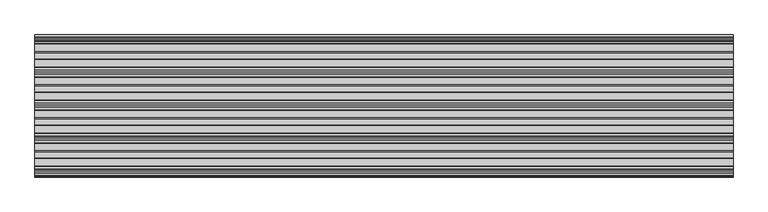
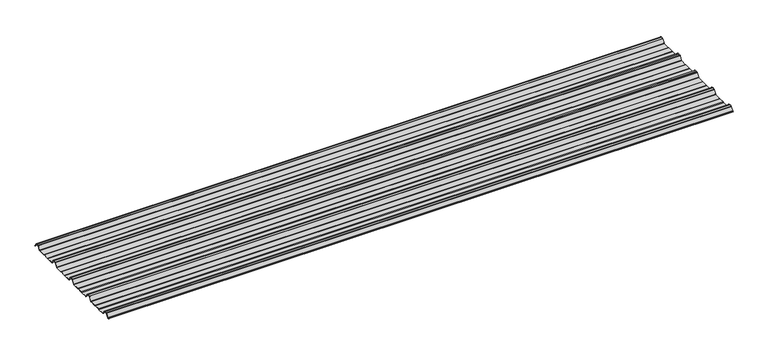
"""IFC4 building model written with IfcOpenShell, lengths in millimetres: beam geometry, 3D_Metalcraft T-Rib : 3D_Metalcraft T-Rib."""

from ifc_helpers import new_model, si_unit, point, frame, frame_2d, origin, place, context, project, spatial, polyline, circle_curve, trimmed, segment, composite_curve, outline, extrude, source, transform, mapped, element, save


def beam_5dd2faeb(model_context):
    return source(origin(), model_context, "Body", "SweptSolid", [
        extrude(outline(composite_curve([segment(polyline([(-72.2377386, -25.7896475), (-76.3538889, -24.06703), (-113.6461111, -24.06703), (-117.7622614, -25.7896475), (-160.0, -25.7896475)]), True, "CONTINUOUS"), segment(trimmed(circle_curve(frame_2d((-159.2196788, -21.4509358)), 4.4083239), [point((-160.0, -25.7896475))], [point((-162.8209858, -23.9933574))], False, "CARTESIAN"), True, "CONTINUOUS"), segment(polyline([(-162.8209858, -23.9933574), (-178.3273257, -0.5940367)]), True, "CONTINUOUS"), segment(trimmed(circle_curve(frame_2d((-180.8929255, -2.3855242)), 3.1291741), [point((-178.3273257, -0.5940367))], [point((-179.9028031, 0.582874))], True, "CARTESIAN"), True, "CONTINUOUS"), segment(trimmed(circle_curve(frame_2d((-189.9940851, -29.8891871)), 32.0995402), [point((-179.9028031, 0.582874))], [point((-190.0, 2.2103525))], True, "CARTESIAN"), True, "CONTINUOUS"), segment(trimmed(circle_curve(frame_2d((-190.0059149, -29.8891871)), 32.0995402), [point((-190.0, 2.2103525))], [point((-200.0971969, 0.582874))], True, "CARTESIAN"), True, "CONTINUOUS"), segment(trimmed(circle_curve(frame_2d((-199.1070745, -2.3855242)), 3.1291741), [point((-200.0971969, 0.582874))], [point((-201.6726743, -0.5940367))], True, "CARTESIAN"), True, "CONTINUOUS"), segment(polyline([(-201.6726743, -0.5940367), (-217.1790142, -23.9933574)]), True, "CONTINUOUS"), segment(trimmed(circle_curve(frame_2d((-220.7803212, -21.4509358)), 4.4083239), [point((-217.1790142, -23.9933574))], [point((-220.0, -25.7896475))], False, "CARTESIAN"), True, "CONTINUOUS"), segment(polyline([(-220.0, -25.7896475), (-262.2377386, -25.7896475), (-266.3538889, -24.06703), (-303.6461111, -24.06703), (-307.7622614, -25.7896475), (-350.0, -25.7896475)]), True, "CONTINUOUS"), segment(trimmed(circle_curve(frame_2d((-349.2196788, -21.4509358)), 4.4083239), [point((-350.0, -25.7896475))], [point((-352.8209858, -23.9933574))], False, "CARTESIAN"), True, "CONTINUOUS"), segment(polyline([(-352.8209858, -23.9933574), (-368.3273257, -0.5940367)]), True, "CONTINUOUS"), segment(trimmed(circle_curve(frame_2d((-370.8929255, -2.3855242)), 3.1291741), [point((-368.3273257, -0.5940367))], [point((-369.9028031, 0.582874))], True, "CARTESIAN"), True, "CONTINUOUS"), segment(trimmed(circle_curve(frame_2d((-379.9940851, -29.8891871)), 32.0995402), [point((-369.9028031, 0.582874))], [point((-380.0, 2.2103525))], True, "CARTESIAN"), True, "CONTINUOUS"), segment(trimmed(circle_curve(frame_2d((-380.0059149, -29.8891871)), 32.0995402), [point((-380.0, 2.2103525))], [point((-390.0971969, 0.582874))], True, "CARTESIAN"), True, "CONTINUOUS"), segment(trimmed(circle_curve(frame_2d((-389.1070745, -2.3855242)), 3.1291741), [point((-390.0971969, 0.582874))], [point((-391.6726743, -0.5940367))], True, "CARTESIAN"), True, "CONTINUOUS"), segment(polyline([(-391.6726743, -0.5940367), (-407.1790142, -23.9933574)]), True, "CONTINUOUS"), segment(trimmed(circle_curve(frame_2d((-410.7803212, -21.4509358)), 4.4083239), [point((-407.1790142, -23.9933574))], [point((-410.0, -25.7896475))], False, "CARTESIAN"), True, "CONTINUOUS"), segment(polyline([(-410.0, -25.7896475), (-452.2377387, -25.7896475), (-456.3538889, -24.06703), (-493.6461111, -24.06703), (-497.7622614, -25.7896475), (-540.0, -25.7896475)]), True, "CONTINUOUS"), segment(trimmed(circle_curve(frame_2d((-539.2196788, -21.4509358)), 4.4083239), [point((-540.0, -25.7896475))], [point((-542.8209858, -23.9933574))], False, "CARTESIAN"), True, "CONTINUOUS"), segment(polyline([(-542.8209858, -23.9933574), (-558.3273257, -0.5940367)]), True, "CONTINUOUS"), segment(trimmed(circle_curve(frame_2d((-560.8929255, -2.3855242)), 3.1291741), [point((-558.3273257, -0.5940367))], [point((-559.9028031, 0.582874))], True, "CARTESIAN"), True, "CONTINUOUS"), segment(trimmed(circle_curve(frame_2d((-569.9940851, -29.8891871)), 32.0995402), [point((-559.9028031, 0.582874))], [point((-570.0, 2.2103525))], True, "CARTESIAN"), True, "CONTINUOUS"), segment(trimmed(circle_curve(frame_2d((-570.0059149, -29.8891871)), 32.0995402), [point((-570.0, 2.2103525))], [point((-580.0971969, 0.582874))], True, "CARTESIAN"), True, "CONTINUOUS"), segment(trimmed(circle_curve(frame_2d((-579.1070745, -2.3855242)), 3.1291741), [point((-580.0971969, 0.582874))], [point((-581.6726743, -0.5940367))], True, "CARTESIAN"), True, "CONTINUOUS"), segment(polyline([(-581.6726743, -0.5940367), (-597.1790142, -23.9933574)]), True, "CONTINUOUS"), segment(trimmed(circle_curve(frame_2d((-600.7803212, -21.4509358)), 4.4083239), [point((-597.1790142, -23.9933574))], [point((-600.0, -25.7896475))], False, "CARTESIAN"), True, "CONTINUOUS"), segment(polyline([(-600.0, -25.7896475), (-642.2377387, -25.7896475), (-646.3538889, -24.06703), (-683.6461111, -24.06703), (-687.7622614, -25.7896475), (-730.0, -25.7896475)]), True, "CONTINUOUS"), segment(trimmed(circle_curve(frame_2d((-729.2196788, -21.4509358)), 4.4083239), [point((-730.0, -25.7896475))], [point((-732.8209858, -23.9933574))], False, "CARTESIAN"), True, "CONTINUOUS"), segment(polyline([(-732.8209858, -23.9933574), (-748.3273257, -0.5940367)]), True, "CONTINUOUS"), segment(trimmed(circle_curve(frame_2d((-750.8929255, -2.3855242)), 3.1291741), [point((-748.3273257, -0.5940367))], [point((-749.9028031, 0.582874))], True, "CARTESIAN"), True, "CONTINUOUS"), segment(trimmed(circle_curve(frame_2d((-759.9940851, -29.8891871)), 32.0995402), [point((-749.9028031, 0.582874))], [point((-760.0, 2.2103525))], True, "CARTESIAN"), True, "CONTINUOUS"), segment(trimmed(circle_curve(frame_2d((-760.0059149, -29.8891871)), 32.0995402), [point((-760.0, 2.2103525))], [point((-770.0971969, 0.582874))], True, "CARTESIAN"), True, "CONTINUOUS"), segment(trimmed(circle_curve(frame_2d((-769.1070745, -2.3855242)), 3.1291741), [point((-770.0971969, 0.582874))], [point((-771.6726743, -0.5940367))], True, "CARTESIAN"), True, "CONTINUOUS"), segment(polyline([(-771.6726743, -0.5940367), (-785.8536479, -21.993358)]), True, "CONTINUOUS"), segment(trimmed(circle_curve(frame_2d((-789.4549545, -19.4509358)), 4.4083239), [point((-785.8536479, -21.993358))], [point((-788.6746333, -23.7896475))], False, "CARTESIAN"), True, "CONTINUOUS"), segment(polyline([(-788.6746333, -23.7896475), (-792.3232685, -23.7896475)]), True, "CONTINUOUS"), segment(trimmed(circle_curve(frame_2d((-792.3232685, -23.2896475)), 0.5), [point((-792.3232685, -23.7896475))], [point((-792.3232685, -22.7896475))], False, "CARTESIAN"), True, "CONTINUOUS"), segment(polyline([(-792.3232685, -22.7896475), (-788.769625, -22.7896475)]), True, "CONTINUOUS"), segment(trimmed(circle_curve(frame_2d((-789.4549545, -19.4509358)), 3.4083239), [point((-788.769625, -22.7896475))], [point((-786.6785605, -21.42788))], True, "CARTESIAN"), True, "CONTINUOUS"), segment(polyline([(-786.6785605, -21.42788), (-772.5, -0.0322)]), True, "CONTINUOUS"), segment(trimmed(circle_curve(frame_2d((-769.1070745, -2.3855242)), 4.1291741), [point((-772.5, -0.0322))], [point((-770.41253, 1.5318556))], False, "CARTESIAN"), True, "CONTINUOUS"), segment(trimmed(circle_curve(frame_2d((-760.0059149, -29.8891871)), 33.0995402), [point((-770.41253, 1.5318556))], [point((-760.0, 3.2103525))], False, "CARTESIAN"), True, "CONTINUOUS"), segment(trimmed(circle_curve(frame_2d((-759.9940851, -29.8891871)), 33.0995402), [point((-760.0, 3.2103525))], [point((-749.58747, 1.5318556))], False, "CARTESIAN"), True, "CONTINUOUS"), segment(trimmed(circle_curve(frame_2d((-750.8929255, -2.3855242)), 4.1291741), [point((-749.58747, 1.5318556))], [point((-747.5, -0.0322))], False, "CARTESIAN"), True, "CONTINUOUS"), segment(polyline([(-747.5, -0.0322), (-732.1223092, -23.2373872)]), True, "CONTINUOUS"), segment(trimmed(circle_curve(frame_2d((-729.2196788, -21.4509358)), 3.4083239), [point((-732.1223092, -23.2373872))], [point((-729.9050084, -24.7896475))], True, "CARTESIAN"), True, "CONTINUOUS"), segment(polyline([(-729.9050084, -24.7896475), (-687.9630742, -24.7896475), (-683.846924, -23.06703), (-646.1530761, -23.06703), (-642.0369258, -24.7896475), (-600.0949917, -24.7896475)]), True, "CONTINUOUS"), segment(trimmed(circle_curve(frame_2d((-600.7803212, -21.4509358)), 3.4083239), [point((-600.0949917, -24.7896475))], [point((-597.8776908, -23.2373872))], True, "CARTESIAN"), True, "CONTINUOUS"), segment(polyline([(-597.8776908, -23.2373872), (-582.5, -0.0322)]), True, "CONTINUOUS"), segment(trimmed(circle_curve(frame_2d((-579.1070745, -2.3855242)), 4.1291741), [point((-582.5, -0.0322))], [point((-580.41253, 1.5318556))], False, "CARTESIAN"), True, "CONTINUOUS"), segment(trimmed(circle_curve(frame_2d((-570.0059149, -29.8891871)), 33.0995402), [point((-580.41253, 1.5318556))], [point((-570.0, 3.2103525))], False, "CARTESIAN"), True, "CONTINUOUS"), segment(trimmed(circle_curve(frame_2d((-569.9940851, -29.8891871)), 33.0995402), [point((-570.0, 3.2103525))], [point((-559.58747, 1.5318556))], False, "CARTESIAN"), True, "CONTINUOUS"), segment(trimmed(circle_curve(frame_2d((-560.8929255, -2.3855242)), 4.1291741), [point((-559.58747, 1.5318556))], [point((-557.5, -0.0322))], False, "CARTESIAN"), True, "CONTINUOUS"), segment(polyline([(-557.5, -0.0322), (-542.1223092, -23.2373872)]), True, "CONTINUOUS"), segment(trimmed(circle_curve(frame_2d((-539.2196788, -21.4509358)), 3.4083239), [point((-542.1223092, -23.2373872))], [point((-539.9050084, -24.7896475))], True, "CARTESIAN"), True, "CONTINUOUS"), segment(polyline([(-539.9050084, -24.7896475), (-497.9630742, -24.7896475), (-493.846924, -23.06703), (-456.1530761, -23.06703), (-452.0369258, -24.7896475), (-410.0949917, -24.7896475)]), True, "CONTINUOUS"), segment(trimmed(circle_curve(frame_2d((-410.7803212, -21.4509358)), 3.4083239), [point((-410.0949917, -24.7896475))], [point((-407.8776908, -23.2373872))], True, "CARTESIAN"), True, "CONTINUOUS"), segment(polyline([(-407.8776908, -23.2373872), (-392.5, -0.0322)]), True, "CONTINUOUS"), segment(trimmed(circle_curve(frame_2d((-389.1070745, -2.3855242)), 4.1291741), [point((-392.5, -0.0322))], [point((-390.41253, 1.5318556))], False, "CARTESIAN"), True, "CONTINUOUS"), segment(trimmed(circle_curve(frame_2d((-380.0059149, -29.8891871)), 33.0995402), [point((-390.41253, 1.5318556))], [point((-380.0, 3.2103525))], False, "CARTESIAN"), True, "CONTINUOUS"), segment(trimmed(circle_curve(frame_2d((-379.9940851, -29.8891871)), 33.0995402), [point((-380.0, 3.2103525))], [point((-369.58747, 1.5318556))], False, "CARTESIAN"), True, "CONTINUOUS"), segment(trimmed(circle_curve(frame_2d((-370.8929255, -2.3855242)), 4.1291741), [point((-369.58747, 1.5318556))], [point((-367.5, -0.0322))], False, "CARTESIAN"), True, "CONTINUOUS"), segment(polyline([(-367.5, -0.0322), (-352.1223092, -23.2373872)]), True, "CONTINUOUS"), segment(trimmed(circle_curve(frame_2d((-349.2196788, -21.4509358)), 3.4083239), [point((-352.1223092, -23.2373872))], [point((-349.9050084, -24.7896475))], True, "CARTESIAN"), True, "CONTINUOUS"), segment(polyline([(-349.9050084, -24.7896475), (-307.9630742, -24.7896475), (-303.846924, -23.06703), (-266.153076, -23.06703), (-262.0369258, -24.7896475), (-220.0949917, -24.7896475)]), True, "CONTINUOUS"), segment(trimmed(circle_curve(frame_2d((-220.7803212, -21.4509358)), 3.4083239), [point((-220.0949917, -24.7896475))], [point((-217.8776908, -23.2373872))], True, "CARTESIAN"), True, "CONTINUOUS"), segment(polyline([(-217.8776908, -23.2373872), (-202.5, -0.0322)]), True, "CONTINUOUS"), segment(trimmed(circle_curve(frame_2d((-199.1070745, -2.3855242)), 4.1291741), [point((-202.5, -0.0322))], [point((-200.41253, 1.5318556))], False, "CARTESIAN"), True, "CONTINUOUS"), segment(trimmed(circle_curve(frame_2d((-190.0059149, -29.8891871)), 33.0995402), [point((-200.41253, 1.5318556))], [point((-190.0, 3.2103525))], False, "CARTESIAN"), True, "CONTINUOUS"), segment(trimmed(circle_curve(frame_2d((-189.9940851, -29.8891871)), 33.0995402), [point((-190.0, 3.2103525))], [point((-179.58747, 1.5318556))], False, "CARTESIAN"), True, "CONTINUOUS"), segment(trimmed(circle_curve(frame_2d((-180.8929255, -2.3855242)), 4.1291741), [point((-179.58747, 1.5318556))], [point((-177.5, -0.0322))], False, "CARTESIAN"), True, "CONTINUOUS"), segment(polyline([(-177.5, -0.0322), (-162.1223092, -23.2373872)]), True, "CONTINUOUS"), segment(trimmed(circle_curve(frame_2d((-159.2196788, -21.4509358)), 3.4083239), [point((-162.1223092, -23.2373872))], [point((-159.9050084, -24.7896475))], True, "CARTESIAN"), True, "CONTINUOUS"), segment(polyline([(-159.9050084, -24.7896475), (-117.9630742, -24.7896475), (-113.846924, -23.06703), (-76.153076, -23.06703), (-72.0369258, -24.7896475), (-27.6957008, -24.7896475)]), True, "CONTINUOUS"), segment(trimmed(circle_curve(frame_2d((-28.3810303, -21.4509358)), 3.4083239), [point((-27.6957008, -24.7896475))], [point((-25.6046359, -23.4278795))], True, "CARTESIAN"), True, "CONTINUOUS"), segment(polyline([(-25.6046359, -23.4278795), (-10.8390947, -1.146436)]), True, "CONTINUOUS"), segment(trimmed(circle_curve(frame_2d((-9.2408211, -2.2055853)), 1.9173616), [point((-10.8390947, -1.146436))], [point((-9.7828223, -0.366425))], False, "CARTESIAN"), True, "CONTINUOUS"), segment(trimmed(circle_curve(frame_2d((-0.0059149, -29.8891871)), 31.0995402), [point((-9.7828223, -0.366425))], [point((0.0, 1.2103525))], False, "CARTESIAN"), True, "CONTINUOUS"), segment(trimmed(circle_curve(frame_2d((0.0059149, -29.8891871)), 31.0995402), [point((0.0, 1.2103525))], [point((9.7828223, -0.366425))], False, "CARTESIAN"), True, "CONTINUOUS"), segment(trimmed(circle_curve(frame_2d((9.2408211, -2.2055853)), 1.9173616), [point((9.7828223, -0.366425))], [point((10.8390947, -1.146436))], False, "CARTESIAN"), True, "CONTINUOUS"), segment(polyline([(10.8390947, -1.146436), (25.1846039, -22.7940443)]), True, "CONTINUOUS"), segment(trimmed(circle_curve(frame_2d((24.7678141, -23.0702439)), 0.5), [point((25.1846039, -22.7940443))], [point((24.3510243, -23.3464436))], False, "CARTESIAN"), True, "CONTINUOUS"), segment(polyline([(24.3510243, -23.3464436), (10.1734573, -1.9522629)]), True, "CONTINUOUS"), segment(trimmed(circle_curve(frame_2d((8.6614124, -2.9542699)), 1.8139178), [point((10.1734573, -1.9522629))], [point((9.071517, -1.18732))], True, "CARTESIAN"), True, "CONTINUOUS"), segment(trimmed(circle_curve(frame_2d((0.0059149, -29.8891871)), 30.0995402), [point((9.071517, -1.18732))], [point((0.0, 0.2103525))], True, "CARTESIAN"), True, "CONTINUOUS"), segment(trimmed(circle_curve(frame_2d((-0.0059149, -29.8891871)), 30.0995402), [point((0.0, 0.2103525))], [point((-9.071517, -1.18732))], True, "CARTESIAN"), True, "CONTINUOUS"), segment(trimmed(circle_curve(frame_2d((-8.6614124, -2.9542699)), 1.8139178), [point((-9.071517, -1.18732))], [point((-10.1734573, -1.9522629))], True, "CARTESIAN"), True, "CONTINUOUS"), segment(polyline([(-10.1734573, -1.9522629), (-24.7797233, -23.9933574)]), True, "CONTINUOUS"), segment(trimmed(circle_curve(frame_2d((-28.3810303, -21.4509358)), 4.4083239), [point((-24.7797233, -23.9933574))], [point((-27.6007091, -25.7896475))], False, "CARTESIAN"), True, "CONTINUOUS"), segment(polyline([(-27.6007091, -25.7896475), (-72.2377386, -25.7896475)]), True, "CONTINUOUS")], self_intersect=False)), frame((-2009.6447762, 0.0, 0.0), z_axis=(1.0, 0.0, 0.0), x_axis=(0.0, 1.0, 0.0)), (0.0, 0.0, 1.0), 4019.2895524),
    ])


if __name__ == "__main__":
    model = new_model("IFC4")
    model_context = context("Model", 3, world=origin())
    ifc_project = project(units=[si_unit("LENGTHUNIT", "METRE", prefix="MILLI")], contexts=[model_context])
    site = spatial("IfcSite", under=ifc_project)
    building = spatial("IfcBuilding", under=site)
    placement = place(None, origin())
    beam_shape = beam_5dd2faeb(model_context)
    element("IfcBeam", 1, ObjectType="3D_Metalcraft T-Rib : 3D_Metalcraft T-Rib", at=placement, inside=building, context=model_context, shape_type="MappedRepresentation", body=[
        mapped(beam_shape, transform((0.0, 0.0, 0.0), x_axis=(1.0, 0.0, 0.0), y_axis=(0.0, 1.0, 0.0), z_axis=(0.0, 0.0, 1.0))),
    ])
    save(model, "model.ifc")
